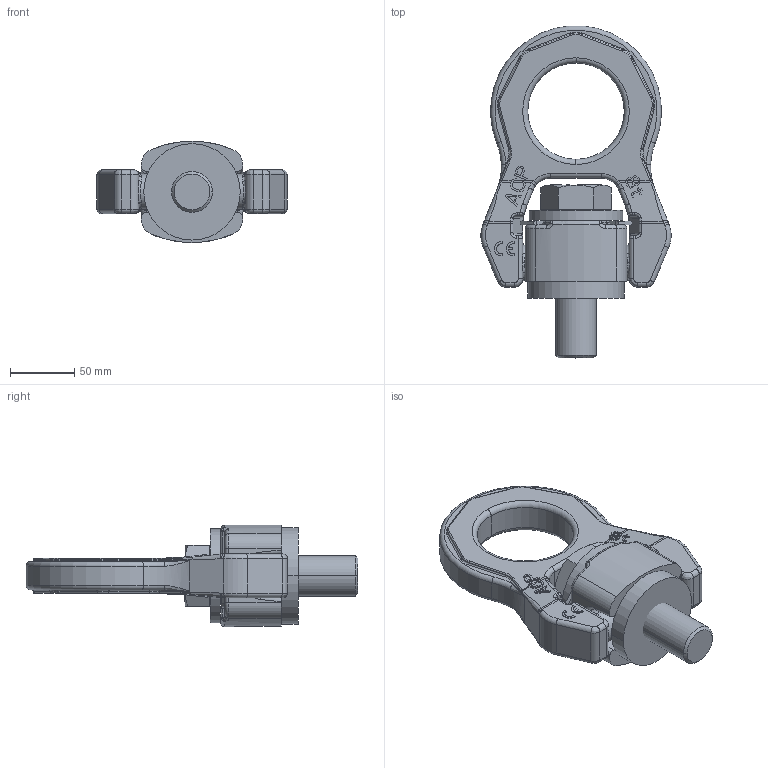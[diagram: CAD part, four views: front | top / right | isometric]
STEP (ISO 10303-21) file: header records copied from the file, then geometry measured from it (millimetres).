
FILE_DESCRIPTION((''),'2;1');
FILE_NAME('001-M35817-P-1_ASM','2019-06-24T',('anja.joas'),(''),'PRO/ENGINEER BY PARAMETRIC TECHNOLOGY CORPORATION, 2011490','PRO/ENGINEER BY PARAMETRIC TECHNOLOGY CORPORATION, 2011490','');
FILE_SCHEMA(('CONFIG_CONTROL_DESIGN'));
Length unit declared in the file: millimetre
Products named in the file (5): 001-M35816-P-20; 001-M35816-P-30; 001-M35816-P-60; 001-M34434-P-3; 001-M35817-P-1_ASM
Assembly tree (4 placements, depth 2):
  001-M35817-P-1_ASM
    001-M35816-P-20
    001-M35816-P-30
    001-M35816-P-60
    001-M34434-P-3
Bounding box: 147.88 x 258.26 x 78.76 mm (x, y, z)
Volume: 792132.4 mm3; surface area: 133489.8 mm2
Topology: 5 solids, 5 shells, 930 faces, 2412 edges, 1520 vertices
Faces by surface type: plane 541, cylinder 202, bspline 94, torus 84, cone 8, extrusion 1
Entity records: 32606 total; most frequent: CARTESIAN_POINT 10205, ORIENTED_EDGE 4824, DIRECTION 4397, EDGE_CURVE 2412, VECTOR 1655, LINE 1654, VERTEX_POINT 1520, AXIS2_PLACEMENT_3D 1371
